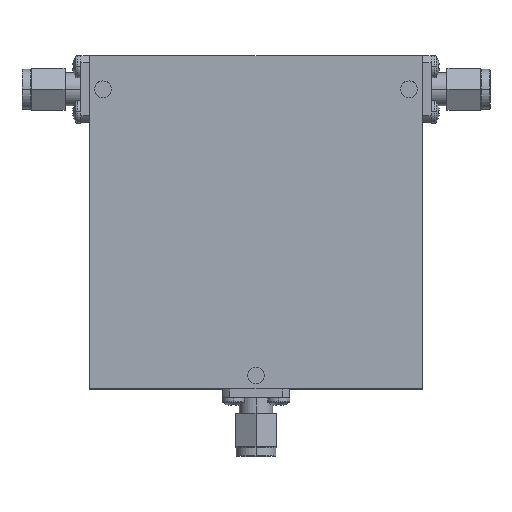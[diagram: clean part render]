
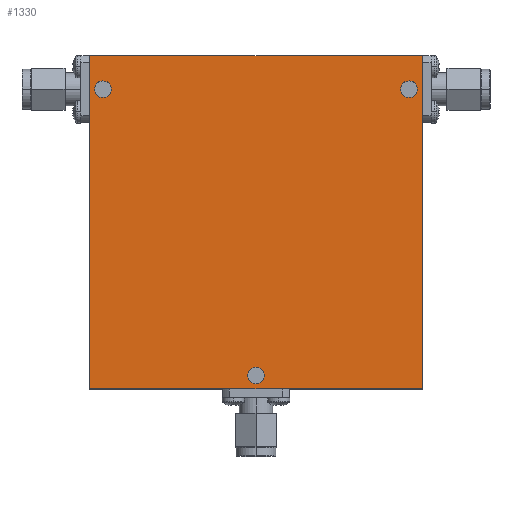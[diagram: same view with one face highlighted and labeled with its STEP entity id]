
A CAD part, top view. The second image highlights one B-rep face of the part: STEP entity #1330.
In plain terms, the highlighted planar face has unit normal (0, 0, 1).
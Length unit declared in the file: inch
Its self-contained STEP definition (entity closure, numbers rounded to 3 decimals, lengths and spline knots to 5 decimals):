
#38 = ORIENTED_EDGE ( 'NONE', *, *, #2891, .F. ) ;
#40 = DIRECTION ( 'NONE',  ( 1., 0., 0. ) ) ;
#42 = CARTESIAN_POINT ( 'NONE',  ( 1.25, -1.25, 0.365 ) ) ;
#63 = LINE ( 'NONE', #122, #3168 ) ;
#87 = CARTESIAN_POINT ( 'NONE',  ( 0.0625, -1.15, 0.365 ) ) ;
#94 = DIRECTION ( 'NONE',  ( 0., 0., 1. ) ) ;
#104 = DIRECTION ( 'NONE',  ( 0., 0., 1. ) ) ;
#122 = CARTESIAN_POINT ( 'NONE',  ( -1.25, 1.25, 0.365 ) ) ;
#126 = ORIENTED_EDGE ( 'NONE', *, *, #941, .F. ) ;
#127 = CARTESIAN_POINT ( 'NONE',  ( 1.15, 1., 0.365 ) ) ;
#134 = LINE ( 'NONE', #1480, #3122 ) ;
#218 = EDGE_CURVE ( 'NONE', #2569, #1564, #742, .T. ) ;
#240 = CARTESIAN_POINT ( 'NONE',  ( -1.25, 1.25, 0.365 ) ) ;
#298 = LINE ( 'NONE', #640, #3283 ) ;
#351 = DIRECTION ( 'NONE',  ( 1., 0., 0. ) ) ;
#400 = EDGE_CURVE ( 'NONE', #2366, #883, #1428, .T. ) ;
#412 = EDGE_LOOP ( 'NONE', ( #1307, #1643, #918, #571 ) ) ;
#468 = VECTOR ( 'NONE', #3272, 39.37008 ) ;
#498 = FACE_OUTER_BOUND ( 'NONE', #412, .T. ) ;
#529 = CARTESIAN_POINT ( 'NONE',  ( -1.25, -1.25, 0.365 ) ) ;
#530 = CARTESIAN_POINT ( 'NONE',  ( 1.0875, 1., 0.365 ) ) ;
#550 = CARTESIAN_POINT ( 'NONE',  ( -1.15, 1., 0.365 ) ) ;
#571 = ORIENTED_EDGE ( 'NONE', *, *, #1093, .T. ) ;
#597 = LINE ( 'NONE', #1223, #468 ) ;
#640 = CARTESIAN_POINT ( 'NONE',  ( 1.25, 1.25, 0.365 ) ) ;
#657 = FACE_BOUND ( 'NONE', #2219, .T. ) ;
#665 = AXIS2_PLACEMENT_3D ( 'NONE', #735, #1265, #2298 ) ;
#718 = VERTEX_POINT ( 'NONE', #530 ) ;
#719 = CARTESIAN_POINT ( 'NONE',  ( 0., -1.15, 0.365 ) ) ;
#722 = PLANE ( 'NONE',  #665 ) ;
#735 = CARTESIAN_POINT ( 'NONE',  ( 0., 0., 0.365 ) ) ;
#742 = CIRCLE ( 'NONE', #1636, 0.0625 ) ;
#812 = DIRECTION ( 'NONE',  ( 0., 0., 1. ) ) ;
#867 = AXIS2_PLACEMENT_3D ( 'NONE', #1663, #94, #351 ) ;
#883 = VERTEX_POINT ( 'NONE', #2171 ) ;
#918 = ORIENTED_EDGE ( 'NONE', *, *, #2499, .T. ) ;
#921 = CARTESIAN_POINT ( 'NONE',  ( 1.2125, 1., 0.365 ) ) ;
#941 = EDGE_CURVE ( 'NONE', #718, #1791, #1466, .T. ) ;
#1017 = VERTEX_POINT ( 'NONE', #1535 ) ;
#1093 = EDGE_CURVE ( 'NONE', #2794, #2246, #134, .T. ) ;
#1135 = ORIENTED_EDGE ( 'NONE', *, *, #1491, .F. ) ;
#1223 = CARTESIAN_POINT ( 'NONE',  ( -1.25, 1.25, 0.365 ) ) ;
#1265 = DIRECTION ( 'NONE',  ( 0., 0., 1. ) ) ;
#1307 = ORIENTED_EDGE ( 'NONE', *, *, #3085, .T. ) ;
#1330 = ADVANCED_FACE ( 'NONE', ( #657, #1349, #2720, #498 ), #722, .T. ) ;
#1332 = DIRECTION ( 'NONE',  ( 1., 0., 0. ) ) ;
#1337 = DIRECTION ( 'NONE',  ( 1., 0., 0. ) ) ;
#1349 = FACE_BOUND ( 'NONE', #1519, .T. ) ;
#1387 = DIRECTION ( 'NONE',  ( 1., 0., 0. ) ) ;
#1428 = CIRCLE ( 'NONE', #867, 0.0625 ) ;
#1432 = DIRECTION ( 'NONE',  ( 1., 0., 0. ) ) ;
#1466 = CIRCLE ( 'NONE', #2379, 0.0625 ) ;
#1480 = CARTESIAN_POINT ( 'NONE',  ( -1.25, -1.25, 0.365 ) ) ;
#1485 = CIRCLE ( 'NONE', #2729, 0.0625 ) ;
#1491 = EDGE_CURVE ( 'NONE', #1791, #718, #2233, .T. ) ;
#1519 = EDGE_LOOP ( 'NONE', ( #2694, #3223 ) ) ;
#1535 = CARTESIAN_POINT ( 'NONE',  ( 1.25, 1.25, 0.365 ) ) ;
#1564 = VERTEX_POINT ( 'NONE', #3181 ) ;
#1632 = DIRECTION ( 'NONE',  ( 0., 0., 1. ) ) ;
#1636 = AXIS2_PLACEMENT_3D ( 'NONE', #2865, #2118, #1332 ) ;
#1643 = ORIENTED_EDGE ( 'NONE', *, *, #2262, .T. ) ;
#1663 = CARTESIAN_POINT ( 'NONE',  ( 0., -1.15, 0.365 ) ) ;
#1791 = VERTEX_POINT ( 'NONE', #921 ) ;
#1836 = EDGE_CURVE ( 'NONE', #883, #2366, #2715, .T. ) ;
#2118 = DIRECTION ( 'NONE',  ( 0., 0., 1. ) ) ;
#2164 = DIRECTION ( 'NONE',  ( -1., 0., 0. ) ) ;
#2171 = CARTESIAN_POINT ( 'NONE',  ( -0.0625, -1.15, 0.365 ) ) ;
#2186 = AXIS2_PLACEMENT_3D ( 'NONE', #719, #3029, #2508 ) ;
#2219 = EDGE_LOOP ( 'NONE', ( #1135, #126 ) ) ;
#2233 = CIRCLE ( 'NONE', #3038, 0.0625 ) ;
#2246 = VERTEX_POINT ( 'NONE', #42 ) ;
#2262 = EDGE_CURVE ( 'NONE', #1017, #2800, #63, .T. ) ;
#2279 = EDGE_LOOP ( 'NONE', ( #2637, #38 ) ) ;
#2298 = DIRECTION ( 'NONE',  ( 1., 0., 0. ) ) ;
#2366 = VERTEX_POINT ( 'NONE', #87 ) ;
#2368 = CARTESIAN_POINT ( 'NONE',  ( 1.15, 1., 0.365 ) ) ;
#2379 = AXIS2_PLACEMENT_3D ( 'NONE', #127, #104, #1387 ) ;
#2499 = EDGE_CURVE ( 'NONE', #2800, #2794, #597, .T. ) ;
#2508 = DIRECTION ( 'NONE',  ( 1., 0., 0. ) ) ;
#2569 = VERTEX_POINT ( 'NONE', #3164 ) ;
#2637 = ORIENTED_EDGE ( 'NONE', *, *, #218, .F. ) ;
#2694 = ORIENTED_EDGE ( 'NONE', *, *, #400, .F. ) ;
#2715 = CIRCLE ( 'NONE', #2186, 0.0625 ) ;
#2720 = FACE_BOUND ( 'NONE', #2279, .T. ) ;
#2729 = AXIS2_PLACEMENT_3D ( 'NONE', #550, #1632, #1337 ) ;
#2794 = VERTEX_POINT ( 'NONE', #529 ) ;
#2800 = VERTEX_POINT ( 'NONE', #240 ) ;
#2865 = CARTESIAN_POINT ( 'NONE',  ( -1.15, 1., 0.365 ) ) ;
#2891 = EDGE_CURVE ( 'NONE', #1564, #2569, #1485, .T. ) ;
#3029 = DIRECTION ( 'NONE',  ( 0., 0., 1. ) ) ;
#3038 = AXIS2_PLACEMENT_3D ( 'NONE', #2368, #812, #40 ) ;
#3085 = EDGE_CURVE ( 'NONE', #2246, #1017, #298, .T. ) ;
#3122 = VECTOR ( 'NONE', #1432, 39.37008 ) ;
#3164 = CARTESIAN_POINT ( 'NONE',  ( -1.0875, 1., 0.365 ) ) ;
#3168 = VECTOR ( 'NONE', #2164, 39.37008 ) ;
#3181 = CARTESIAN_POINT ( 'NONE',  ( -1.2125, 1., 0.365 ) ) ;
#3220 = DIRECTION ( 'NONE',  ( 0., 1., 0. ) ) ;
#3223 = ORIENTED_EDGE ( 'NONE', *, *, #1836, .F. ) ;
#3272 = DIRECTION ( 'NONE',  ( 0., -1., 0. ) ) ;
#3283 = VECTOR ( 'NONE', #3220, 39.37008 ) ;
